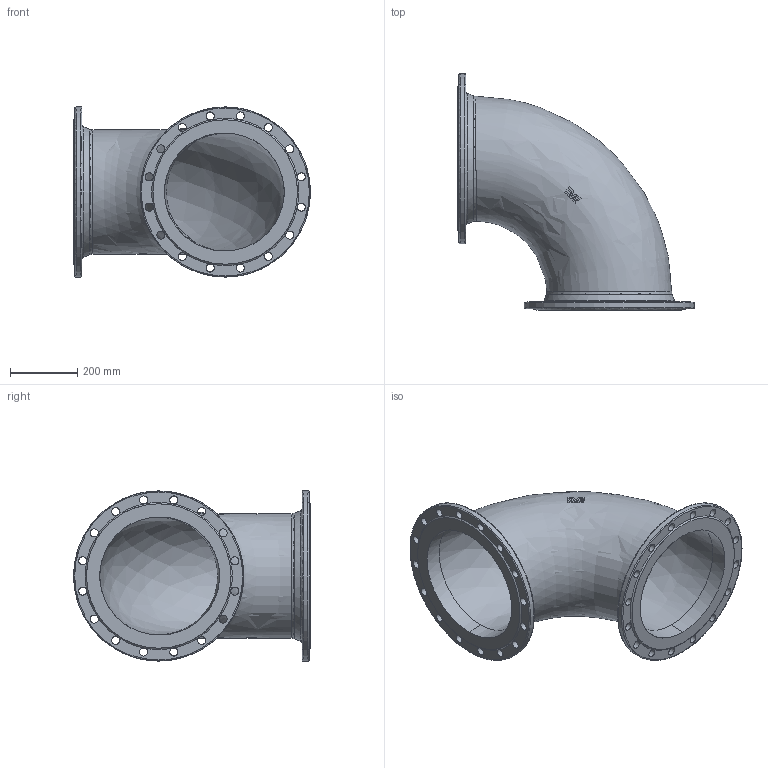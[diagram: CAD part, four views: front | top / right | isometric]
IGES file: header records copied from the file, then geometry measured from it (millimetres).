
Start section: SolidWorks IGES file using analytic representation for surfaces
Global section: file name: \\avksan2\techshare\PBM outline export from Enovia\O_712_0610_DN350_0X_REV01.igs; native system: SolidWorks 2019; preprocessor: SolidWorks 2019; author: pbm; date: 211119.111706; units: millimetre
Bounding box: 702.5 x 702.5 x 505 mm (x, y, z)
Surface area: 2771250.3 mm2 (no closed solid volume)
Topology: 0 solids, 0 shells, 132 faces, 692 edges, 643 vertices
Faces by surface type: bspline 78, revolution 54
